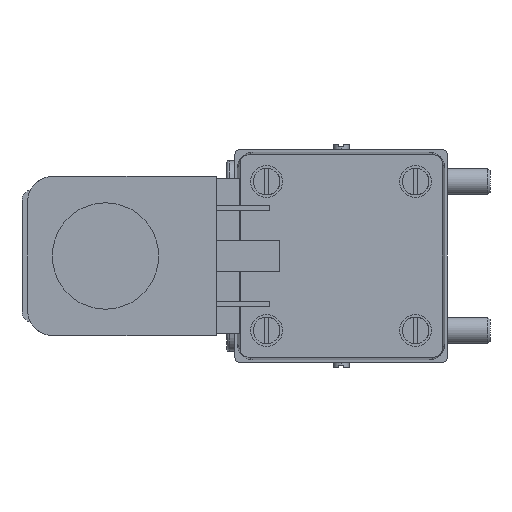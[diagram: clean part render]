
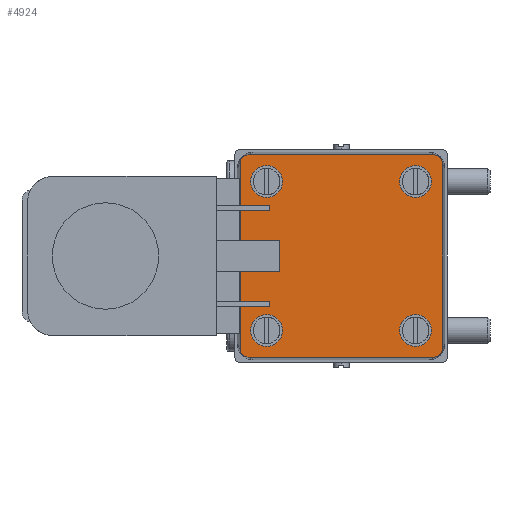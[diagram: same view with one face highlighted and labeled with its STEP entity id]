
A CAD part, left-side view. The second image highlights one B-rep face of the part: STEP entity #4924.
In plain terms, the highlighted planar face has unit normal (-1, 0, 0).
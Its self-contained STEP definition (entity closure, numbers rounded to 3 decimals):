
#516=CARTESIAN_POINT('',(-55.,14.,14.));
#517=DIRECTION('',(-1.,0.,0.));
#518=DIRECTION('',(0.,0.,1.));
#519=AXIS2_PLACEMENT_3D('',#516,#517,#518);
#521=CARTESIAN_POINT('',(-55.,14.,14.));
#522=DIRECTION('',(-1.,0.,0.));
#523=DIRECTION('',(0.,0.,-1.));
#524=AXIS2_PLACEMENT_3D('',#521,#522,#523);
#526=CARTESIAN_POINT('',(-55.,14.,-14.));
#527=DIRECTION('',(-1.,0.,0.));
#528=DIRECTION('',(0.,0.,1.));
#529=AXIS2_PLACEMENT_3D('',#526,#527,#528);
#531=CARTESIAN_POINT('',(-55.,14.,-14.));
#532=DIRECTION('',(-1.,0.,0.));
#533=DIRECTION('',(0.,0.,-1.));
#534=AXIS2_PLACEMENT_3D('',#531,#532,#533);
#536=CARTESIAN_POINT('',(-55.,-14.,-14.));
#537=DIRECTION('',(-1.,0.,0.));
#538=DIRECTION('',(0.,0.,1.));
#539=AXIS2_PLACEMENT_3D('',#536,#537,#538);
#541=CARTESIAN_POINT('',(-55.,-14.,-14.));
#542=DIRECTION('',(-1.,0.,0.));
#543=DIRECTION('',(0.,0.,-1.));
#544=AXIS2_PLACEMENT_3D('',#541,#542,#543);
#546=CARTESIAN_POINT('',(-55.,-14.,14.));
#547=DIRECTION('',(-1.,0.,0.));
#548=DIRECTION('',(0.,0.,1.));
#549=AXIS2_PLACEMENT_3D('',#546,#547,#548);
#551=CARTESIAN_POINT('',(-55.,-14.,14.));
#552=DIRECTION('',(-1.,0.,0.));
#553=DIRECTION('',(0.,0.,-1.));
#554=AXIS2_PLACEMENT_3D('',#551,#552,#553);
#556=CARTESIAN_POINT('',(-55.,17.503,19.));
#557=CARTESIAN_POINT('',(-55.,17.628,19.));
#558=CARTESIAN_POINT('',(-55.,17.848,18.971));
#559=CARTESIAN_POINT('',(-55.,18.218,18.842));
#560=CARTESIAN_POINT('',(-55.,18.583,18.583));
#561=CARTESIAN_POINT('',(-55.,18.842,18.218));
#562=CARTESIAN_POINT('',(-55.,18.971,17.848));
#563=CARTESIAN_POINT('',(-55.,19.,17.628));
#564=CARTESIAN_POINT('',(-55.,19.,17.503));
#566=DIRECTION('',(0.,1.,0.));
#567=VECTOR('',#566,35.007);
#568=CARTESIAN_POINT('',(-55.,-17.503,19.));
#569=LINE('',#568,#567);
#570=CARTESIAN_POINT('',(-55.,-19.,17.503));
#571=CARTESIAN_POINT('',(-55.,-19.,17.628));
#572=CARTESIAN_POINT('',(-55.,-18.971,17.848));
#573=CARTESIAN_POINT('',(-55.,-18.842,18.218));
#574=CARTESIAN_POINT('',(-55.,-18.583,18.583));
#575=CARTESIAN_POINT('',(-55.,-18.218,18.842));
#576=CARTESIAN_POINT('',(-55.,-17.848,18.971));
#577=CARTESIAN_POINT('',(-55.,-17.628,19.));
#578=CARTESIAN_POINT('',(-55.,-17.503,19.));
#580=DIRECTION('',(0.,0.,1.));
#581=VECTOR('',#580,35.007);
#582=CARTESIAN_POINT('',(-55.,-19.,-17.503));
#583=LINE('',#582,#581);
#584=CARTESIAN_POINT('',(-55.,-17.503,-19.));
#585=CARTESIAN_POINT('',(-55.,-17.628,-19.));
#586=CARTESIAN_POINT('',(-55.,-17.848,-18.971));
#587=CARTESIAN_POINT('',(-55.,-18.218,-18.842));
#588=CARTESIAN_POINT('',(-55.,-18.583,-18.583));
#589=CARTESIAN_POINT('',(-55.,-18.842,-18.218));
#590=CARTESIAN_POINT('',(-55.,-18.971,-17.848));
#591=CARTESIAN_POINT('',(-55.,-19.,-17.628));
#592=CARTESIAN_POINT('',(-55.,-19.,-17.503));
#594=DIRECTION('',(0.,1.,0.));
#595=VECTOR('',#594,35.007);
#596=CARTESIAN_POINT('',(-55.,-17.503,-19.));
#597=LINE('',#596,#595);
#598=CARTESIAN_POINT('',(-55.,19.,-17.503));
#599=CARTESIAN_POINT('',(-55.,19.,-17.628));
#600=CARTESIAN_POINT('',(-55.,18.971,-17.848));
#601=CARTESIAN_POINT('',(-55.,18.842,-18.218));
#602=CARTESIAN_POINT('',(-55.,18.583,-18.583));
#603=CARTESIAN_POINT('',(-55.,18.218,-18.842));
#604=CARTESIAN_POINT('',(-55.,17.848,-18.971));
#605=CARTESIAN_POINT('',(-55.,17.628,-19.));
#606=CARTESIAN_POINT('',(-55.,17.503,-19.));
#608=DIRECTION('',(0.,0.,1.));
#609=VECTOR('',#608,35.007);
#610=CARTESIAN_POINT('',(-55.,19.,-17.503));
#611=LINE('',#610,#609);
#3592=CARTESIAN_POINT('',(-55.,14.,17.));
#3593=CARTESIAN_POINT('',(-55.,14.,11.));
#3594=VERTEX_POINT('',#3592);
#3595=VERTEX_POINT('',#3593);
#3596=CARTESIAN_POINT('',(-55.,14.,-11.));
#3597=CARTESIAN_POINT('',(-55.,14.,-17.));
#3598=VERTEX_POINT('',#3596);
#3599=VERTEX_POINT('',#3597);
#3600=CARTESIAN_POINT('',(-55.,-14.,-11.));
#3601=CARTESIAN_POINT('',(-55.,-14.,-17.));
#3602=VERTEX_POINT('',#3600);
#3603=VERTEX_POINT('',#3601);
#3604=CARTESIAN_POINT('',(-55.,-14.,17.));
#3605=CARTESIAN_POINT('',(-55.,-14.,11.));
#3606=VERTEX_POINT('',#3604);
#3607=VERTEX_POINT('',#3605);
#3736=VERTEX_POINT('',#556);
#3737=VERTEX_POINT('',#564);
#3742=CARTESIAN_POINT('',(-55.,19.,-17.503));
#3744=VERTEX_POINT('',#3742);
#3746=VERTEX_POINT('',#606);
#3749=CARTESIAN_POINT('',(-55.,-19.,17.503));
#3751=VERTEX_POINT('',#3749);
#3753=VERTEX_POINT('',#578);
#3756=VERTEX_POINT('',#584);
#3757=VERTEX_POINT('',#592);
#4879=CARTESIAN_POINT('',(-55.,0.,0.));
#4880=DIRECTION('',(-1.,0.,0.));
#4881=DIRECTION('',(0.,0.,1.));
#4882=AXIS2_PLACEMENT_3D('',#4879,#4880,#4881);
#4883=PLANE('',#4882);
#4884=ORIENTED_EDGE('',*,*,#4870,.F.);
#4886=ORIENTED_EDGE('',*,*,#4885,.F.);
#4888=ORIENTED_EDGE('',*,*,#4887,.F.);
#4890=ORIENTED_EDGE('',*,*,#4889,.F.);
#4892=ORIENTED_EDGE('',*,*,#4891,.F.);
#4894=ORIENTED_EDGE('',*,*,#4893,.T.);
#4896=ORIENTED_EDGE('',*,*,#4895,.F.);
#4897=ORIENTED_EDGE('',*,*,#4857,.T.);
#4898=EDGE_LOOP('',(#4884,#4886,#4888,#4890,#4892,#4894,#4896,#4897));
#4899=FACE_OUTER_BOUND('',#4898,.F.);
#4901=ORIENTED_EDGE('',*,*,#4900,.T.);
#4903=ORIENTED_EDGE('',*,*,#4902,.T.);
#4904=EDGE_LOOP('',(#4901,#4903));
#4905=FACE_BOUND('',#4904,.F.);
#4907=ORIENTED_EDGE('',*,*,#4906,.T.);
#4909=ORIENTED_EDGE('',*,*,#4908,.T.);
#4910=EDGE_LOOP('',(#4907,#4909));
#4911=FACE_BOUND('',#4910,.F.);
#4913=ORIENTED_EDGE('',*,*,#4912,.T.);
#4915=ORIENTED_EDGE('',*,*,#4914,.T.);
#4916=EDGE_LOOP('',(#4913,#4915));
#4917=FACE_BOUND('',#4916,.F.);
#4919=ORIENTED_EDGE('',*,*,#4918,.T.);
#4921=ORIENTED_EDGE('',*,*,#4920,.T.);
#4922=EDGE_LOOP('',(#4919,#4921));
#4923=FACE_BOUND('',#4922,.F.);
#4924=ADVANCED_FACE('',(#4899,#4905,#4911,#4917,#4923),#4883,.T.);
#520=CIRCLE('',#519,3.);
#525=CIRCLE('',#524,3.);
#530=CIRCLE('',#529,3.);
#535=CIRCLE('',#534,3.);
#540=CIRCLE('',#539,3.);
#545=CIRCLE('',#544,3.);
#550=CIRCLE('',#549,3.);
#555=CIRCLE('',#554,3.);
#565=B_SPLINE_CURVE_WITH_KNOTS('',3,(#556,#557,#558,#559,#560,#561,#562,#563,
#564),.UNSPECIFIED.,.F.,.F.,(4,1,1,1,1,1,4),(0.,0.125,0.25,0.5,0.75,
0.875,1.),.UNSPECIFIED.);
#579=B_SPLINE_CURVE_WITH_KNOTS('',3,(#570,#571,#572,#573,#574,#575,#576,#577,
#578),.UNSPECIFIED.,.F.,.F.,(4,1,1,1,1,1,4),(0.,0.125,0.25,0.5,0.75,
0.875,1.),.UNSPECIFIED.);
#593=B_SPLINE_CURVE_WITH_KNOTS('',3,(#584,#585,#586,#587,#588,#589,#590,#591,
#592),.UNSPECIFIED.,.F.,.F.,(4,1,1,1,1,1,4),(0.,0.125,0.25,0.5,0.75,
0.875,1.),.UNSPECIFIED.);
#607=B_SPLINE_CURVE_WITH_KNOTS('',3,(#598,#599,#600,#601,#602,#603,#604,#605,
#606),.UNSPECIFIED.,.F.,.F.,(4,1,1,1,1,1,4),(0.,0.125,0.25,0.5,0.75,
0.875,1.),.UNSPECIFIED.);
#4857=EDGE_CURVE('',#3744,#3737,#611,.T.);
#4870=EDGE_CURVE('',#3736,#3737,#565,.T.);
#4885=EDGE_CURVE('',#3753,#3736,#569,.T.);
#4887=EDGE_CURVE('',#3751,#3753,#579,.T.);
#4889=EDGE_CURVE('',#3757,#3751,#583,.T.);
#4891=EDGE_CURVE('',#3756,#3757,#593,.T.);
#4893=EDGE_CURVE('',#3756,#3746,#597,.T.);
#4895=EDGE_CURVE('',#3744,#3746,#607,.T.);
#4900=EDGE_CURVE('',#3598,#3599,#530,.T.);
#4902=EDGE_CURVE('',#3599,#3598,#535,.T.);
#4906=EDGE_CURVE('',#3602,#3603,#540,.T.);
#4908=EDGE_CURVE('',#3603,#3602,#545,.T.);
#4912=EDGE_CURVE('',#3606,#3607,#550,.T.);
#4914=EDGE_CURVE('',#3607,#3606,#555,.T.);
#4918=EDGE_CURVE('',#3594,#3595,#520,.T.);
#4920=EDGE_CURVE('',#3595,#3594,#525,.T.);
